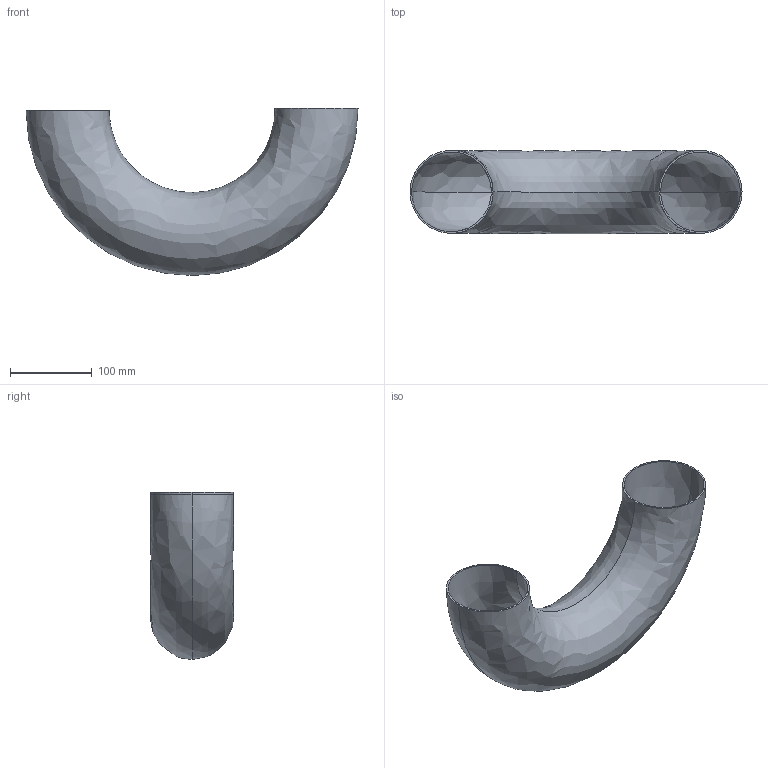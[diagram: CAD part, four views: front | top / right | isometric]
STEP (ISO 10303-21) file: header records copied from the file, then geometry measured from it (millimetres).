
FILE_DESCRIPTION (( 'STEP AP203' ), '1' );
FILE_NAME ('E2WU4.0.STEP', '2018-04-30T18:22:32', ( 'vneprd' ), ( 'Microsoft' ), 'SwSTEP 2.0', 'SolidWorks 2014', '' );
FILE_SCHEMA (( 'CONFIG_CONTROL_DESIGN' ));
Length unit declared in the file: inch
Products named in the file (1): E2WU4.0
Bounding box: 406.39 x 101.6 x 204.56 mm (x, y, z)
Volume: 315513.5 mm3; surface area: 300607.7 mm2
Topology: 1 solids, 1 shells, 10 faces, 22 edges, 14 vertices
Faces by surface type: bspline 8, plane 2
Entity records: 5877 total; most frequent: CARTESIAN_POINT 5611, ORIENTED_EDGE 44, DIRECTION 26, EDGE_CURVE 22, VERTEX_POINT 14, AXIS2_PLACEMENT_3D 13, EDGE_LOOP 12, B_SPLINE_CURVE_WITH_KNOTS 12
